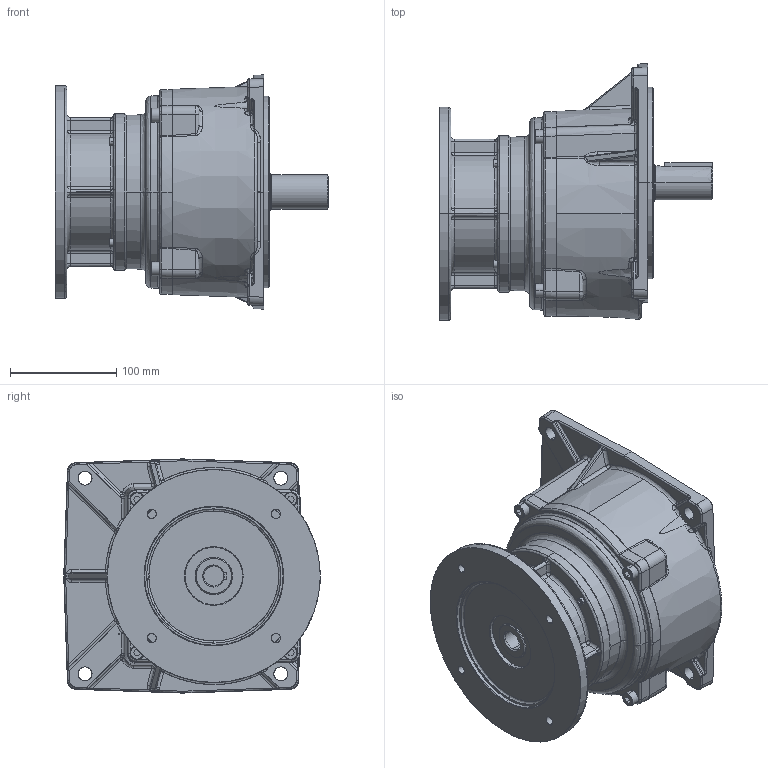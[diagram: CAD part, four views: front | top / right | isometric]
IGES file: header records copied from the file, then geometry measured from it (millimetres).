
Start section: SolidWorks IGES file using analytic representation for surfaces
Bounding box: 257 x 241 x 220 mm (x, y, z)
Surface area: 381721.5 mm2 (no closed solid volume)
Topology: 0 solids, 0 shells, 761 faces, 9760 edges, 9733 vertices
Faces by surface type: bspline 444, revolution 317
